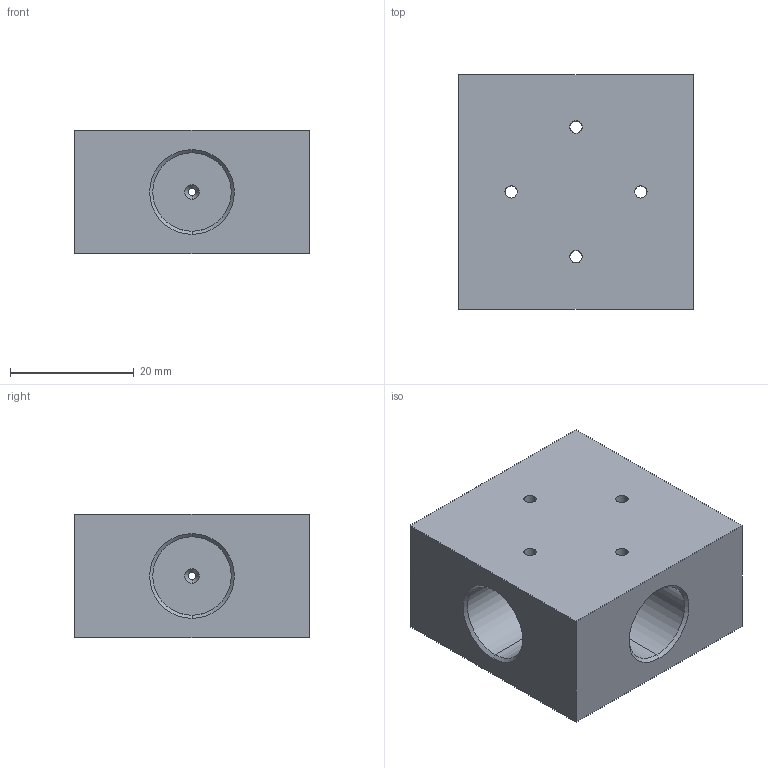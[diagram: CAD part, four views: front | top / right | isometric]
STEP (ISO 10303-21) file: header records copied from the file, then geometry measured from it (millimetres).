
FILE_DESCRIPTION (( 'STEP AP203' ), '1' );
FILE_NAME ('FT30CS02.STEP', '2026-06-26T00:50:00', ( 'USER' ), ( '' ), 'SwSTEP 2.0', 'SolidWorks 2023', '' );
FILE_SCHEMA (( 'CONFIG_CONTROL_DESIGN' ));
Length unit declared in the file: millimetre
Products named in the file (1): FT30CS02
Bounding box: 38 x 38 x 20 mm (x, y, z)
Volume: 23503.7 mm3; surface area: 7780.3 mm2
Topology: 1 solids, 1 shells, 58 faces, 152 edges, 90 vertices
Faces by surface type: cylinder 32, cone 16, plane 10
Entity records: 2113 total; most frequent: CARTESIAN_POINT 593, ORIENTED_EDGE 304, DIRECTION 298, EDGE_CURVE 152, AXIS2_PLACEMENT_3D 115, VERTEX_POINT 90, EDGE_LOOP 74, LINE 68
